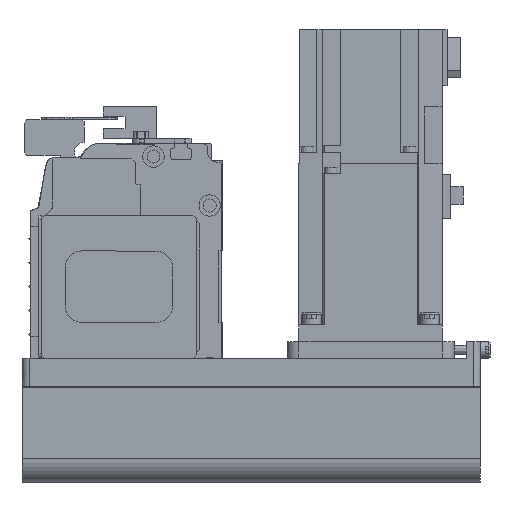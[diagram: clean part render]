
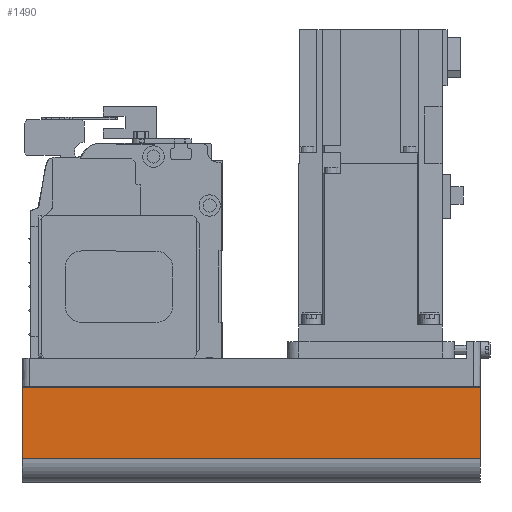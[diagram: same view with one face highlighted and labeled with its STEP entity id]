
A CAD part, left-side view. The second image highlights one B-rep face of the part: STEP entity #1490.
In plain terms, the highlighted planar face has unit normal (-1, 0, 0) as drawn and (0, 1, 0) by its records, which use the part's own axes.
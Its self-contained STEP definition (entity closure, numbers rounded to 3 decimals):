
#1490 = ADVANCED_FACE( '', ( #3463 ), #3464, .T. );
#3463 = FACE_OUTER_BOUND( '', #6071, .T. );
#3464 = PLANE( '', #6072 );
#6071 = EDGE_LOOP( '', ( #10136, #10137, #10138, #10139 ) );
#6072 = AXIS2_PLACEMENT_3D( '', #10140, #10141, #10142 );
#10136 = ORIENTED_EDGE( '', *, *, #15811, .F. );
#10137 = ORIENTED_EDGE( '', *, *, #15511, .F. );
#10138 = ORIENTED_EDGE( '', *, *, #15668, .T. );
#10139 = ORIENTED_EDGE( '', *, *, #15812, .T. );
#10140 = CARTESIAN_POINT( '', ( -192., 40., -42. ) );
#10141 = DIRECTION( '', ( 0., 1., 0. ) );
#10142 = DIRECTION( '', ( 0., 0., 1. ) );
#15511 = EDGE_CURVE( '', #18818, #18816, #18820, .T. );
#15668 = EDGE_CURVE( '', #18818, #19067, #19070, .T. );
#15811 = EDGE_CURVE( '', #18816, #18441, #19284, .T. );
#15812 = EDGE_CURVE( '', #19067, #18441, #19285, .T. );
#18441 = VERTEX_POINT( '', #22706 );
#18816 = VERTEX_POINT( '', #23207 );
#18818 = VERTEX_POINT( '', #23209 );
#18820 = LINE( '', #23211, #23212 );
#19067 = VERTEX_POINT( '', #23537 );
#19070 = LINE( '', #23541, #23542 );
#19284 = LINE( '', #23831, #23832 );
#19285 = LINE( '', #23833, #23834 );
#22706 = CARTESIAN_POINT( '', ( 0., 40., -12.1 ) );
#23207 = CARTESIAN_POINT( '', ( 0., 40., -42. ) );
#23209 = CARTESIAN_POINT( '', ( -192., 40., -42. ) );
#23211 = CARTESIAN_POINT( '', ( -192., 40., -42. ) );
#23212 = VECTOR( '', #27291, 1000. );
#23537 = CARTESIAN_POINT( '', ( -192., 40., -12.1 ) );
#23541 = CARTESIAN_POINT( '', ( -192., 40., -42. ) );
#23542 = VECTOR( '', #27500, 1000. );
#23831 = CARTESIAN_POINT( '', ( 0., 40., -42. ) );
#23832 = VECTOR( '', #27675, 1000. );
#23833 = CARTESIAN_POINT( '', ( -192., 40., -12.1 ) );
#23834 = VECTOR( '', #27676, 1000. );
#27291 = DIRECTION( '', ( 1., 0., 0. ) );
#27500 = DIRECTION( '', ( 0., 0., 1. ) );
#27675 = DIRECTION( '', ( 0., 0., 1. ) );
#27676 = DIRECTION( '', ( 1., 0., 0. ) );
